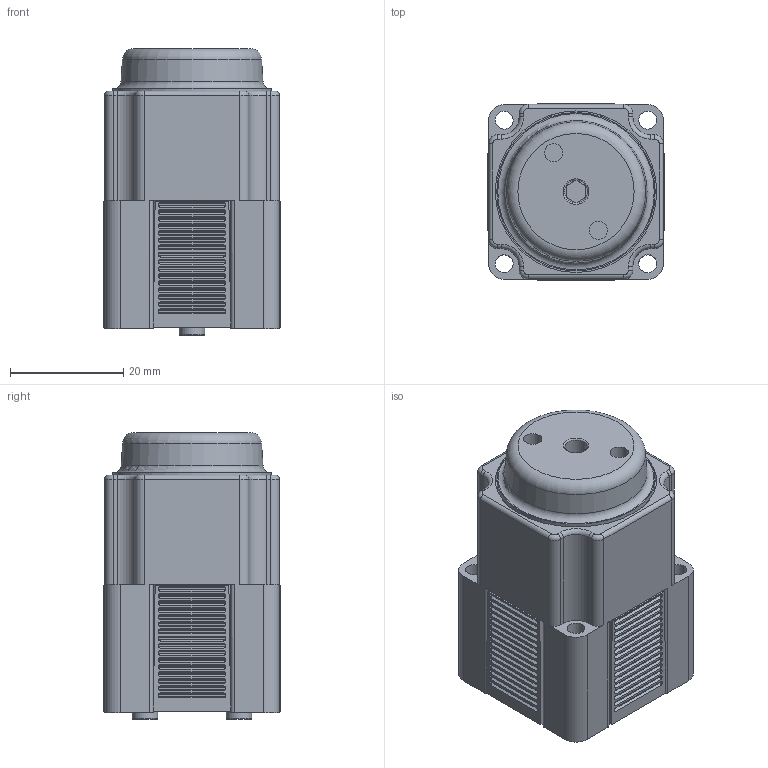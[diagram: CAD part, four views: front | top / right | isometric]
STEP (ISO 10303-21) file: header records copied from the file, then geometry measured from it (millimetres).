
FILE_DESCRIPTION(/* description */ (''),/* implementation_level */ '2;1');
FILE_NAME(/* name */ 'K:\Normteile INVENTOR\Air-Logic\Regulators\PR6000\PR 6___ B Blank Dovetail.igs.ipt.stp',/* time_stamp */ '2020-05-27T10:53:18+02:00',/* author */ ('Paul'),/* organization */ (''),/* preprocessor_version */ 'ST-DEVELOPER v18',/* originating_system */ 'Autodesk Inventor 2020',/* authorisation */ '');
FILE_SCHEMA (('AUTOMOTIVE_DESIGN { 1 0 10303 214 3 1 1 }'));
Length unit declared in the file: inch
Products named in the file (1): PR 6___ B Blank Dovetail.igs
Bounding box: 31.19 x 31.19 x 50.78 mm (x, y, z)
Volume: 39042.5 mm3; surface area: 12344.6 mm2
Topology: 1 solids, 1 shells, 708 faces, 1801 edges, 1178 vertices
Faces by surface type: plane 363, cylinder 296, torus 27, bspline 20, cone 2
Full cylindrical faces by diameter (mm): 1.194 x1, 2.032 x1, 3.124 x2, 3.175 x8, 3.226 x2, 4.013 x1, 4.521 x2, 8.382 x2, 25.781 x1, 28.047 x1, 28.575 x1
Entity records: 25265 total; most frequent: CARTESIAN_POINT 6818, DIRECTION 3937, ORIENTED_EDGE 3602, EDGE_CURVE 1801, AXIS2_PLACEMENT_3D 1579, VERTEX_POINT 1178, EDGE_LOOP 799, LINE 779
